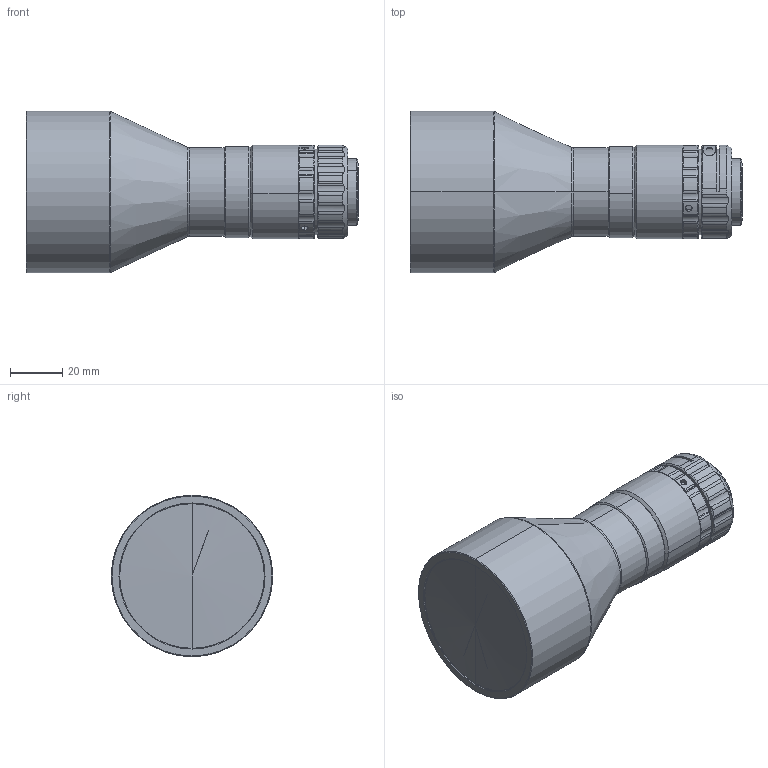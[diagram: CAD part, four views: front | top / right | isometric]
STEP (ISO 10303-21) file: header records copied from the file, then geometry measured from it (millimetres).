
FILE_DESCRIPTION (( 'STEP AP203' ), '1' );
FILE_NAME ('DTCM230-42-AL.STEP', '2022-08-05T05:38:53', ( '' ), ( '' ), 'SwSTEP 2.0', 'SolidWorks 2017', '' );
FILE_SCHEMA (( 'CONFIG_CONTROL_DESIGN' ));
Length unit declared in the file: millimetre
Products named in the file (1): DTCM230-42-AL
Bounding box: 127.42 x 62 x 62 mm (x, y, z)
Volume: 213737.1 mm3; surface area: 23158.3 mm2
Topology: 1 solids, 1 shells, 203 faces, 542 edges, 345 vertices
Faces by surface type: cylinder 118, cone 62, plane 19, torus 2, bspline 2
Entity records: 7104 total; most frequent: CARTESIAN_POINT 2120, ORIENTED_EDGE 1072, DIRECTION 999, EDGE_CURVE 536, AXIS2_PLACEMENT_3D 416, VERTEX_POINT 345, EDGE_LOOP 215, CIRCLE 214
